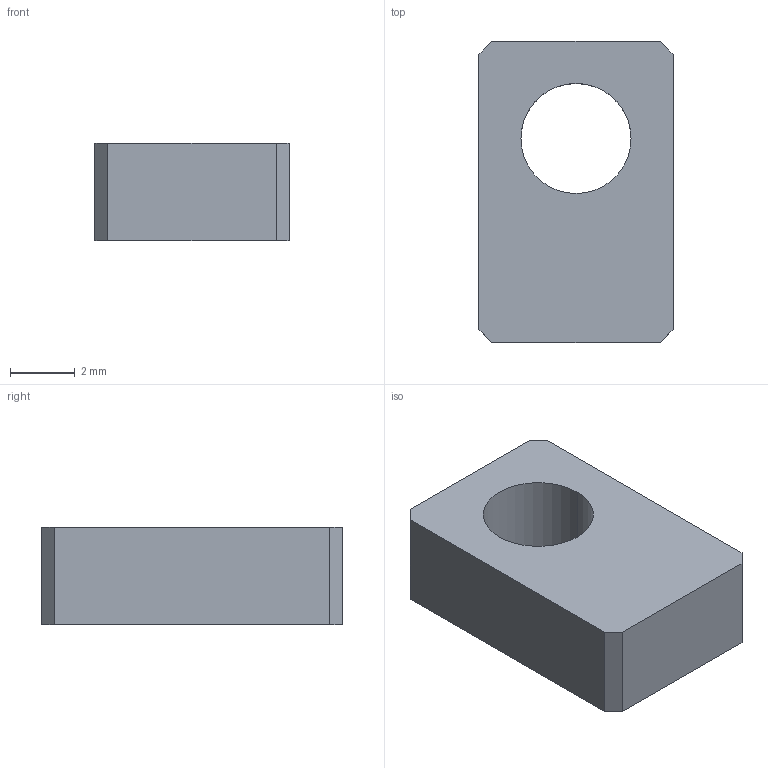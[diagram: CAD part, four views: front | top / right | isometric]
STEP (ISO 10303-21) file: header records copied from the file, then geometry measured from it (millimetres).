
FILE_DESCRIPTION (( 'STEP AP203' ), '1' );
FILE_NAME ('06_receiver_edge_clip.step', '2026-10-15T09:23:43', ( '' ), ( '' ), 'SwSTEP 2.0', 'SolidWorks 2025', '' );
FILE_SCHEMA (( 'CONFIG_CONTROL_DESIGN' ));
Length unit declared in the file: millimetre
Products named in the file (1): 06_receiver_edge_clip
Bounding box: 6 x 9.3 x 3 mm (x, y, z)
Volume: 139.2 mm3; surface area: 213.8 mm2
Topology: 1 solids, 1 shells, 12 faces, 30 edges, 20 vertices
Faces by surface type: plane 10, cylinder 2
Entity records: 439 total; most frequent: CARTESIAN_POINT 63, ORIENTED_EDGE 60, DIRECTION 60, EDGE_CURVE 30, LINE 26, VECTOR 26, VERTEX_POINT 20, AXIS2_PLACEMENT_3D 17
